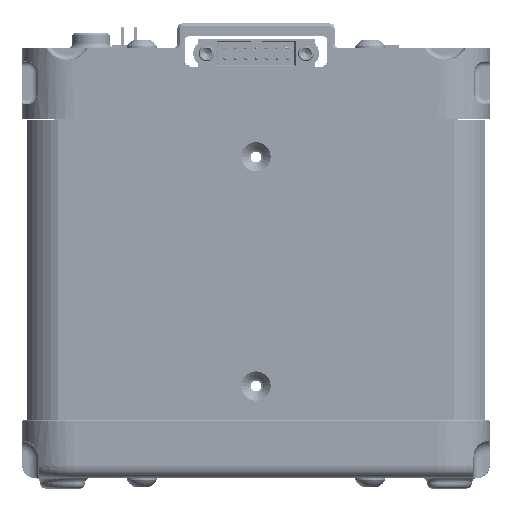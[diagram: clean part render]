
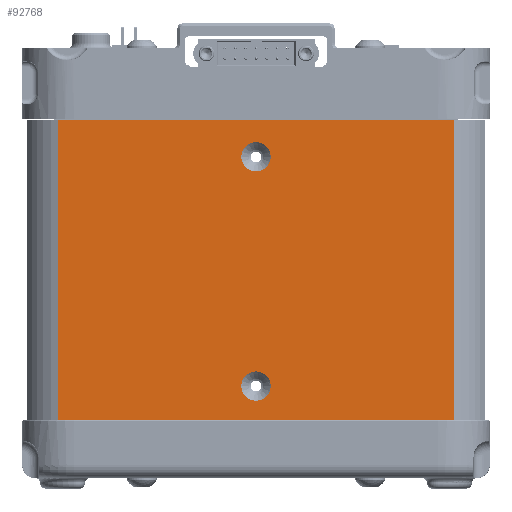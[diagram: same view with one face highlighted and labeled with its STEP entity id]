
A CAD part, left-side view. The second image highlights one B-rep face of the part: STEP entity #92768.
In plain terms, the highlighted planar face has unit normal (-1, 0, 0).
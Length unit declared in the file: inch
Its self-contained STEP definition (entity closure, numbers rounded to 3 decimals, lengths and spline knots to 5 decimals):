
#1144 = CARTESIAN_POINT ( 'NONE',  ( -2.12377, -2.49069, 1.72367 ) ) ;
#1507 = ORIENTED_EDGE ( 'NONE', *, *, #32331, .F. ) ;
#2791 = CARTESIAN_POINT ( 'NONE',  ( -2.12377, 0.47781, 3.97807 ) ) ;
#6442 = CARTESIAN_POINT ( 'NONE',  ( -2.12377, -1.11644, 1.976 ) ) ;
#7901 = DIRECTION ( 'NONE',  ( -1., 0., 0. ) ) ;
#8122 = AXIS2_PLACEMENT_3D ( 'NONE', #116127, #77441, #111508 ) ;
#11680 = ORIENTED_EDGE ( 'NONE', *, *, #139030, .F. ) ;
#16412 = VERTEX_POINT ( 'NONE', #156120 ) ;
#20518 = VERTEX_POINT ( 'NONE', #1144 ) ;
#23912 = EDGE_CURVE ( 'NONE', #135031, #65865, #135110, .T. ) ;
#25468 = CARTESIAN_POINT ( 'NONE',  ( -2.12377, -2.49069, 1.43981 ) ) ;
#32331 = EDGE_CURVE ( 'NONE', #151776, #39524, #165037, .T. ) ;
#35837 = CARTESIAN_POINT ( 'NONE',  ( -2.12377, 0.71207, 4.23385 ) ) ;
#39161 = CARTESIAN_POINT ( 'NONE',  ( -2.12377, -0.89644, 1.976 ) ) ;
#39524 = VERTEX_POINT ( 'NONE', #6442 ) ;
#47311 = VERTEX_POINT ( 'NONE', #105287 ) ;
#48452 = DIRECTION ( 'NONE',  ( -1., 0., 0. ) ) ;
#48880 = AXIS2_PLACEMENT_3D ( 'NONE', #127867, #48452, #141217 ) ;
#49192 = DIRECTION ( 'NONE',  ( 0., 1., 0. ) ) ;
#50369 = AXIS2_PLACEMENT_3D ( 'NONE', #69036, #161892, #82443 ) ;
#51061 = DIRECTION ( 'NONE',  ( 0., 0., 1. ) ) ;
#52914 = AXIS2_PLACEMENT_3D ( 'NONE', #35837, #128640, #49192 ) ;
#56206 = CIRCLE ( 'NONE', #50369, 0.11 ) ;
#56829 = EDGE_LOOP ( 'NONE', ( #110898, #108691 ) ) ;
#57586 = EDGE_LOOP ( 'NONE', ( #59536, #60565, #128885, #133152 ) ) ;
#59536 = ORIENTED_EDGE ( 'NONE', *, *, #158217, .F. ) ;
#60565 = ORIENTED_EDGE ( 'NONE', *, *, #126135, .T. ) ;
#61642 = AXIS2_PLACEMENT_3D ( 'NONE', #159694, #7901, #122457 ) ;
#64793 = VECTOR ( 'NONE', #117191, 39.37008 ) ;
#65865 = VERTEX_POINT ( 'NONE', #148922 ) ;
#69036 = CARTESIAN_POINT ( 'NONE',  ( -2.12377, -1.00644, 3.69766 ) ) ;
#70422 = DIRECTION ( 'NONE',  ( 0., -1., 0. ) ) ;
#76180 = FACE_BOUND ( 'NONE', #82650, .T. ) ;
#77441 = DIRECTION ( 'NONE',  ( -1., 0., 0. ) ) ;
#80540 = CIRCLE ( 'NONE', #48880, 0.11 ) ;
#82443 = DIRECTION ( 'NONE',  ( 0., -1., 0. ) ) ;
#82650 = EDGE_LOOP ( 'NONE', ( #11680, #1507 ) ) ;
#88146 = PLANE ( 'NONE',  #52914 ) ;
#89675 = EDGE_CURVE ( 'NONE', #65865, #135031, #56206, .T. ) ;
#92768 = ADVANCED_FACE ( 'NONE', ( #107271, #76180, #142486 ), #88146, .F. ) ;
#98146 = VERTEX_POINT ( 'NONE', #2791 ) ;
#103889 = CARTESIAN_POINT ( 'NONE',  ( -2.12377, 0.47781, 1.43981 ) ) ;
#105287 = CARTESIAN_POINT ( 'NONE',  ( -2.12377, 0.47781, 1.72367 ) ) ;
#107271 = FACE_BOUND ( 'NONE', #56829, .T. ) ;
#108691 = ORIENTED_EDGE ( 'NONE', *, *, #23912, .F. ) ;
#110898 = ORIENTED_EDGE ( 'NONE', *, *, #89675, .F. ) ;
#111508 = DIRECTION ( 'NONE',  ( 0., -1., 0. ) ) ;
#115581 = VECTOR ( 'NONE', #124744, 39.37008 ) ;
#116127 = CARTESIAN_POINT ( 'NONE',  ( -2.12377, -1.00644, 1.976 ) ) ;
#116619 = VECTOR ( 'NONE', #51061, 39.37008 ) ;
#117191 = DIRECTION ( 'NONE',  ( 0., 0., 1. ) ) ;
#122457 = DIRECTION ( 'NONE',  ( 0., -1., 0. ) ) ;
#123143 = CARTESIAN_POINT ( 'NONE',  ( -2.12377, 0.47781, 3.97807 ) ) ;
#124744 = DIRECTION ( 'NONE',  ( 0., 1., 0. ) ) ;
#126135 = EDGE_CURVE ( 'NONE', #20518, #16412, #156126, .T. ) ;
#127867 = CARTESIAN_POINT ( 'NONE',  ( -2.12377, -1.00644, 1.976 ) ) ;
#128640 = DIRECTION ( 'NONE',  ( 1., 0., 0. ) ) ;
#128885 = ORIENTED_EDGE ( 'NONE', *, *, #133763, .F. ) ;
#131559 = VECTOR ( 'NONE', #70422, 39.37008 ) ;
#133152 = ORIENTED_EDGE ( 'NONE', *, *, #168187, .F. ) ;
#133763 = EDGE_CURVE ( 'NONE', #98146, #16412, #167039, .T. ) ;
#135031 = VERTEX_POINT ( 'NONE', #164028 ) ;
#135110 = CIRCLE ( 'NONE', #61642, 0.11 ) ;
#137493 = CARTESIAN_POINT ( 'NONE',  ( -2.12377, -2.49069, 1.72367 ) ) ;
#139030 = EDGE_CURVE ( 'NONE', #39524, #151776, #80540, .T. ) ;
#141217 = DIRECTION ( 'NONE',  ( 0., -1., 0. ) ) ;
#142486 = FACE_OUTER_BOUND ( 'NONE', #57586, .T. ) ;
#148922 = CARTESIAN_POINT ( 'NONE',  ( -2.12377, -1.11644, 3.69766 ) ) ;
#151776 = VERTEX_POINT ( 'NONE', #39161 ) ;
#156120 = CARTESIAN_POINT ( 'NONE',  ( -2.12377, -2.49069, 3.97807 ) ) ;
#156126 = LINE ( 'NONE', #25468, #116619 ) ;
#158217 = EDGE_CURVE ( 'NONE', #20518, #47311, #167634, .T. ) ;
#159694 = CARTESIAN_POINT ( 'NONE',  ( -2.12377, -1.00644, 3.69766 ) ) ;
#161892 = DIRECTION ( 'NONE',  ( -1., 0., 0. ) ) ;
#164028 = CARTESIAN_POINT ( 'NONE',  ( -2.12377, -0.89644, 3.69766 ) ) ;
#165037 = CIRCLE ( 'NONE', #8122, 0.11 ) ;
#167039 = LINE ( 'NONE', #123143, #131559 ) ;
#167634 = LINE ( 'NONE', #137493, #115581 ) ;
#168187 = EDGE_CURVE ( 'NONE', #47311, #98146, #170717, .T. ) ;
#170717 = LINE ( 'NONE', #103889, #64793 ) ;
